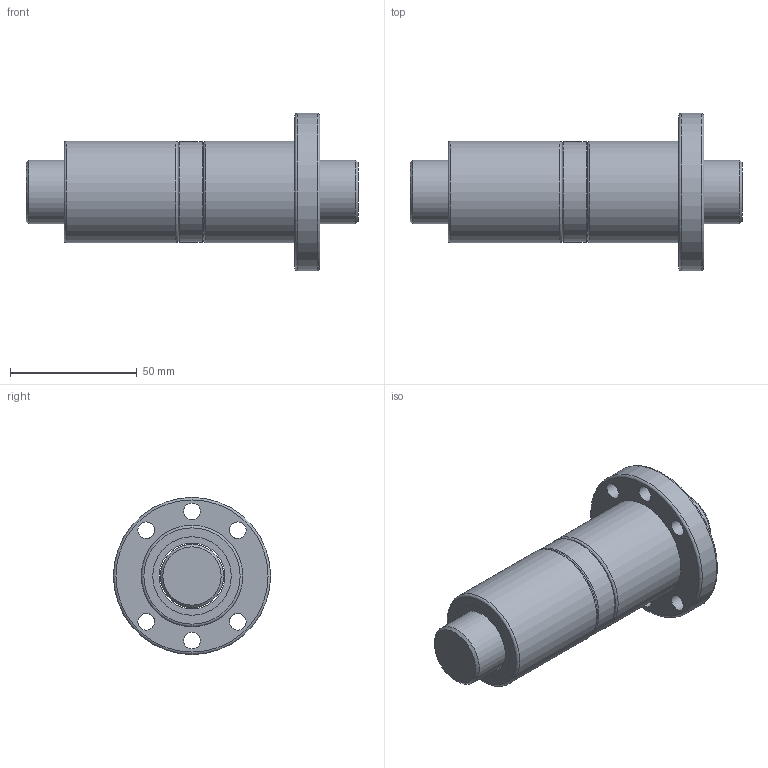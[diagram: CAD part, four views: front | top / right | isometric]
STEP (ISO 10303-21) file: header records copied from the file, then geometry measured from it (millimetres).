
FILE_DESCRIPTION(/* description */ (''),/* implementation_level */ '2;1');
FILE_NAME(/* name */ 'DFU2505',/* time_stamp */ '2007-10-26T10:53:55+08:00',/* author */ (''),/* organization */ (''),/* preprocessor_version */ 'ST-DEVELOPER v9',/* originating_system */ 'EDS PLM SOLUTIONS - UNIGRAPHICS NX 1.0',/* authorisation */ '');
FILE_SCHEMA (('CONFIG_CONTROL_DESIGN'));
Length unit declared in the file: millimetre
Products named in the file (1): FANNDA0400cp
Bounding box: 131 x 62 x 62 mm (x, y, z)
Volume: 152607.7 mm3; surface area: 44291.3 mm2
Topology: 6 solids, 6 shells, 44 faces, 83 edges, 54 vertices
Faces by surface type: cylinder 20, plane 15, torus 7, cone 2
Full cylindrical faces by diameter (mm): 6.6 x6, 25 x1, 26 x5, 31 x4, 39.5 x1, 40 x2, 62 x1
Entity records: 1054 total; most frequent: DIRECTION 188, CARTESIAN_POINT 143, EDGE_LOOP 98, ORIENTED_EDGE 98, AXIS2_PLACEMENT_3D 94, FACE_BOUND 81, VERTEX_POINT 49, EDGE_CURVE 49
